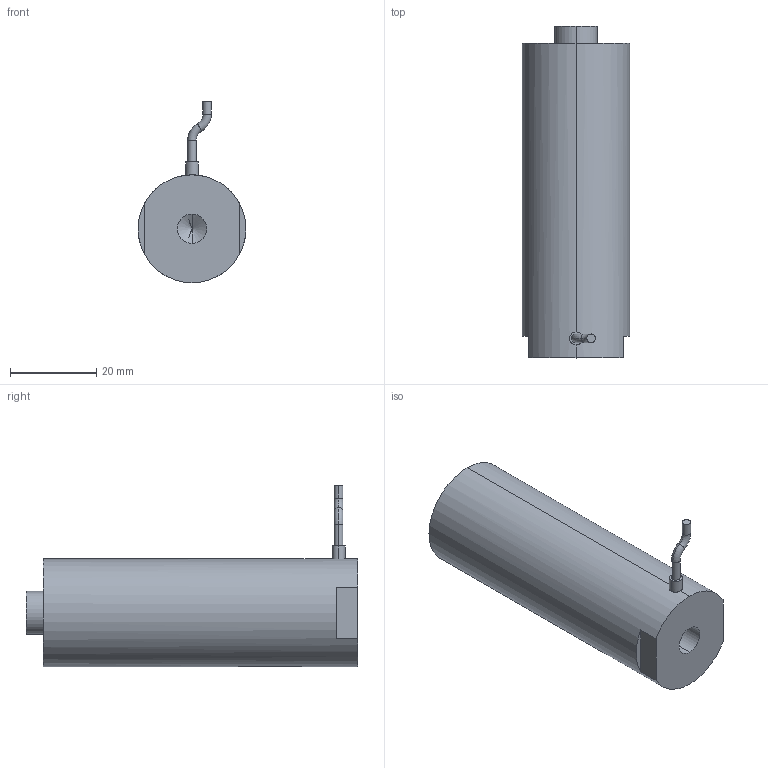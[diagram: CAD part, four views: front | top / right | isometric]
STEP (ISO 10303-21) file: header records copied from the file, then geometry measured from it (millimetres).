
FILE_DESCRIPTION (( 'STEP AP203' ), '1' );
FILE_NAME ('ﾆｽﾍｷﾊｽ60VS25.STEP', '2021-07-08T07:30:19', ( 'ﾎ｢ﾈ橆ﾃｻｧ' ), ( 'ﾎ｢ﾈ晥ｫﾋｾ' ), 'SwSTEP 2.0', 'SolidWorks 2016', '' );
FILE_SCHEMA (( 'CONFIG_CONTROL_DESIGN' ));
Products named in the file (1): ƽͷʽ60VS25
Bounding box: 25 x 77 x 42.06 mm (x, y, z)
Volume: 35681.9 mm3; surface area: 7200.6 mm2
Topology: 1 solids, 1 shells, 937 faces, 2546 edges, 1693 vertices
Faces by surface type: bspline 519, plane 303, cylinder 109, torus 4, cone 2
Entity records: 44986 total; most frequent: CARTESIAN_POINT 25981, ORIENTED_EDGE 5088, EDGE_CURVE 2544, DIRECTION 1910, B_SPLINE_CURVE_WITH_KNOTS 1734, VERTEX_POINT 1693, EDGE_LOOP 1021, FACE_OUTER_BOUND 937
